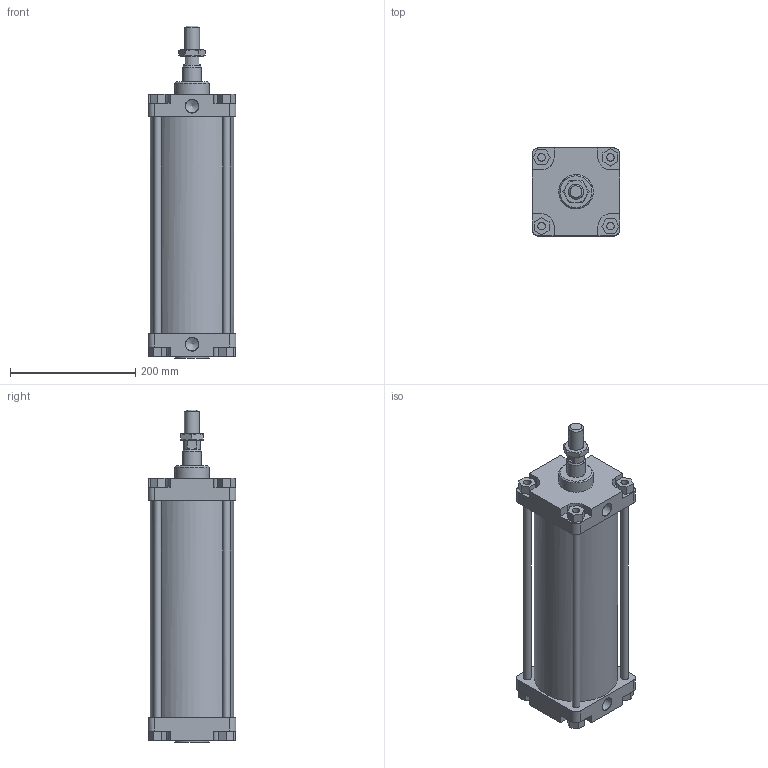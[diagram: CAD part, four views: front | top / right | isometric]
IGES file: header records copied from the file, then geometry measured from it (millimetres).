
Global section: file name: 1304_125_0250_01A; native system: Autodesk Inventor 2014; preprocessor: unknown; author: A. Manieri; date: 20161124.142434; units: millimetre
Bounding box: 140 x 140 x 530 mm (x, y, z)
Volume: 3471247.7 mm3; surface area: 583878.2 mm2
Topology: 9 solids, 9 shells, 175 faces, 440 edges, 295 vertices
Faces by surface type: bspline 175
